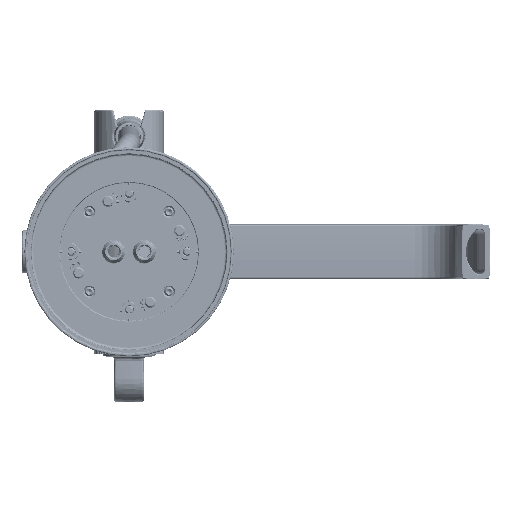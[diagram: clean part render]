
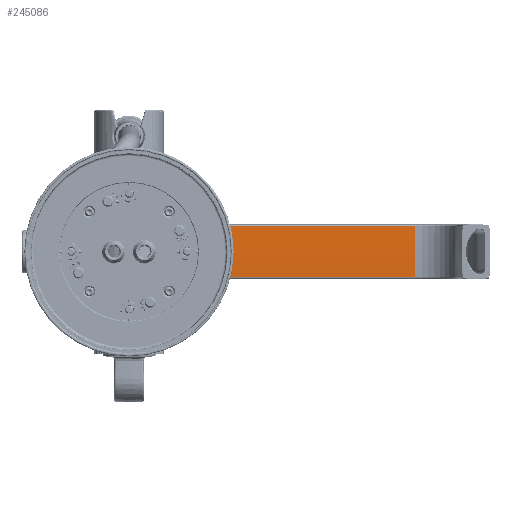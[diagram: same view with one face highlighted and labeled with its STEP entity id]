
A CAD part, front view. The second image highlights one B-rep face of the part: STEP entity #245086.
In plain terms, the highlighted cylindrical face has radius 363.152 mm (diameter 726.305 mm), a partial arc.
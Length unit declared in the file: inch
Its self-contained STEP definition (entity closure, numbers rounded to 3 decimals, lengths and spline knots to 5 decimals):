
#3284 = CARTESIAN_POINT ( 'NONE',  ( 0., 23.95166, 1.55 ) ) ;
#8128 = CIRCLE ( 'NONE', #273903, 14.29734 ) ;
#13453 = VERTEX_POINT ( 'NONE', #54526 ) ;
#13625 = VERTEX_POINT ( 'NONE', #39958 ) ;
#39958 = CARTESIAN_POINT ( 'NONE',  ( 0.71564, 9.67224, 8. ) ) ;
#47004 = CIRCLE ( 'NONE', #92506, 14.29734 ) ;
#52678 = EDGE_CURVE ( 'NONE', #309273, #13625, #8128, .T. ) ;
#54526 = CARTESIAN_POINT ( 'NONE',  ( -0.71564, 9.67224, 8. ) ) ;
#56616 = ORIENTED_EDGE ( 'NONE', *, *, #453000, .T. ) ;
#59252 = CARTESIAN_POINT ( 'NONE',  ( 0., 9.65431, 8. ) ) ;
#65898 = CARTESIAN_POINT ( 'NONE',  ( 0.71564, 9.67224, 1.55 ) ) ;
#74464 = EDGE_CURVE ( 'NONE', #281486, #137059, #47004, .T. ) ;
#74667 = CARTESIAN_POINT ( 'NONE',  ( 0., 9.65431, 1.55 ) ) ;
#80061 = VECTOR ( 'NONE', #413834, 39.37008 ) ;
#92506 = AXIS2_PLACEMENT_3D ( 'NONE', #3284, #309161, #454087 ) ;
#108214 = CIRCLE ( 'NONE', #191683, 14.29734 ) ;
#109841 = CARTESIAN_POINT ( 'NONE',  ( 0., 23.95166, 1.55 ) ) ;
#115977 = DIRECTION ( 'NONE',  ( 0., -1., 0. ) ) ;
#128680 = LINE ( 'NONE', #304751, #191951 ) ;
#129520 = AXIS2_PLACEMENT_3D ( 'NONE', #291499, #289162, #179785 ) ;
#137059 = VERTEX_POINT ( 'NONE', #158338 ) ;
#146321 = CIRCLE ( 'NONE', #252588, 14.29734 ) ;
#147799 = EDGE_CURVE ( 'NONE', #13453, #341047, #128680, .T. ) ;
#158338 = CARTESIAN_POINT ( 'NONE',  ( 0.71564, 9.67224, 1.55 ) ) ;
#177445 = CYLINDRICAL_SURFACE ( 'NONE', #129520, 14.29734 ) ;
#179785 = DIRECTION ( 'NONE',  ( 1., 0., 0. ) ) ;
#184003 = ORIENTED_EDGE ( 'NONE', *, *, #147799, .T. ) ;
#191683 = AXIS2_PLACEMENT_3D ( 'NONE', #296734, #334704, #115977 ) ;
#191951 = VECTOR ( 'NONE', #418758, 39.37008 ) ;
#212212 = DIRECTION ( 'NONE',  ( 0., -1., 0. ) ) ;
#245086 = ADVANCED_FACE ( 'NONE', ( #322526 ), #177445, .T. ) ;
#252588 = AXIS2_PLACEMENT_3D ( 'NONE', #109841, #433228, #212212 ) ;
#273903 = AXIS2_PLACEMENT_3D ( 'NONE', #317383, #424331, #462292 ) ;
#276323 = CARTESIAN_POINT ( 'NONE',  ( -0.71564, 9.67224, 1.55 ) ) ;
#281486 = VERTEX_POINT ( 'NONE', #74667 ) ;
#289162 = DIRECTION ( 'NONE',  ( 0., 0., 1. ) ) ;
#291499 = CARTESIAN_POINT ( 'NONE',  ( 0., 23.95166, 1.55 ) ) ;
#296734 = CARTESIAN_POINT ( 'NONE',  ( 0., 23.95166, 8. ) ) ;
#304751 = CARTESIAN_POINT ( 'NONE',  ( -0.71564, 9.67224, 1.55 ) ) ;
#309161 = DIRECTION ( 'NONE',  ( 0., 0., 1. ) ) ;
#309273 = VERTEX_POINT ( 'NONE', #59252 ) ;
#317383 = CARTESIAN_POINT ( 'NONE',  ( 0., 23.95166, 8. ) ) ;
#322526 = FACE_OUTER_BOUND ( 'NONE', #437641, .T. ) ;
#334704 = DIRECTION ( 'NONE',  ( 0., 0., 1. ) ) ;
#341047 = VERTEX_POINT ( 'NONE', #276323 ) ;
#358355 = ORIENTED_EDGE ( 'NONE', *, *, #419309, .F. ) ;
#413834 = DIRECTION ( 'NONE',  ( 0., 0., 1. ) ) ;
#418758 = DIRECTION ( 'NONE',  ( 0., 0., -1. ) ) ;
#419309 = EDGE_CURVE ( 'NONE', #13453, #309273, #108214, .T. ) ;
#424331 = DIRECTION ( 'NONE',  ( 0., 0., 1. ) ) ;
#424900 = ORIENTED_EDGE ( 'NONE', *, *, #442680, .T. ) ;
#433228 = DIRECTION ( 'NONE',  ( 0., 0., 1. ) ) ;
#437641 = EDGE_LOOP ( 'NONE', ( #358355, #184003, #424900, #453206, #56616, #440209 ) ) ;
#440209 = ORIENTED_EDGE ( 'NONE', *, *, #52678, .F. ) ;
#442680 = EDGE_CURVE ( 'NONE', #341047, #281486, #146321, .T. ) ;
#451772 = LINE ( 'NONE', #65898, #80061 ) ;
#453000 = EDGE_CURVE ( 'NONE', #137059, #13625, #451772, .T. ) ;
#453206 = ORIENTED_EDGE ( 'NONE', *, *, #74464, .T. ) ;
#454087 = DIRECTION ( 'NONE',  ( 0., -1., 0. ) ) ;
#462292 = DIRECTION ( 'NONE',  ( 0., -1., 0. ) ) ;
